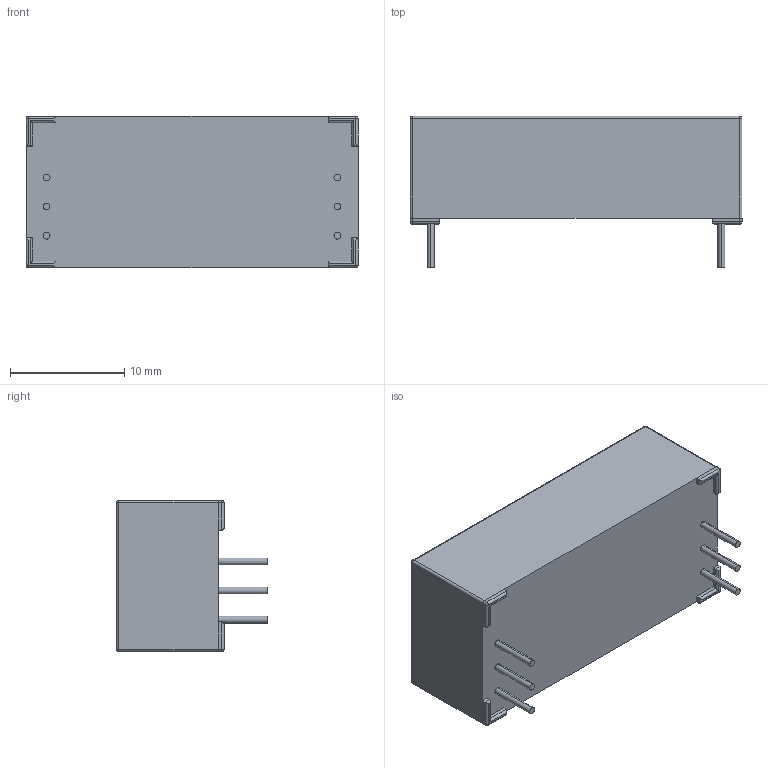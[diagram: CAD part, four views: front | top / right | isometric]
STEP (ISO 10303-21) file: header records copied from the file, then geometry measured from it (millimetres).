
FILE_DESCRIPTION (( 'STEP AP203' ), '1' );
FILE_NAME ('88-2-A.STEP', '2010-06-29T13:38:07', ( ' ' ), ( '' ), 'SwSTEP 2.0', 'SolidWorks 2009', '' );
FILE_SCHEMA (( 'CONFIG_CONTROL_DESIGN' ));
Length unit declared in the file: millimetre
Products named in the file (1): 88-2-A
Bounding box: 29 x 13.2 x 13.2 mm (x, y, z)
Volume: 3412.8 mm3; surface area: 1571.2 mm2
Topology: 1 solids, 1 shells, 759 faces, 1985 edges, 1298 vertices
Faces by surface type: plane 443, bspline 260, cylinder 48, sphere 8
Entity records: 36828 total; most frequent: CARTESIAN_POINT 19939, ORIENTED_EDGE 3954, DIRECTION 2493, EDGE_CURVE 1977, VECTOR 1381, LINE 1381, VERTEX_POINT 1298, EDGE_LOOP 837
